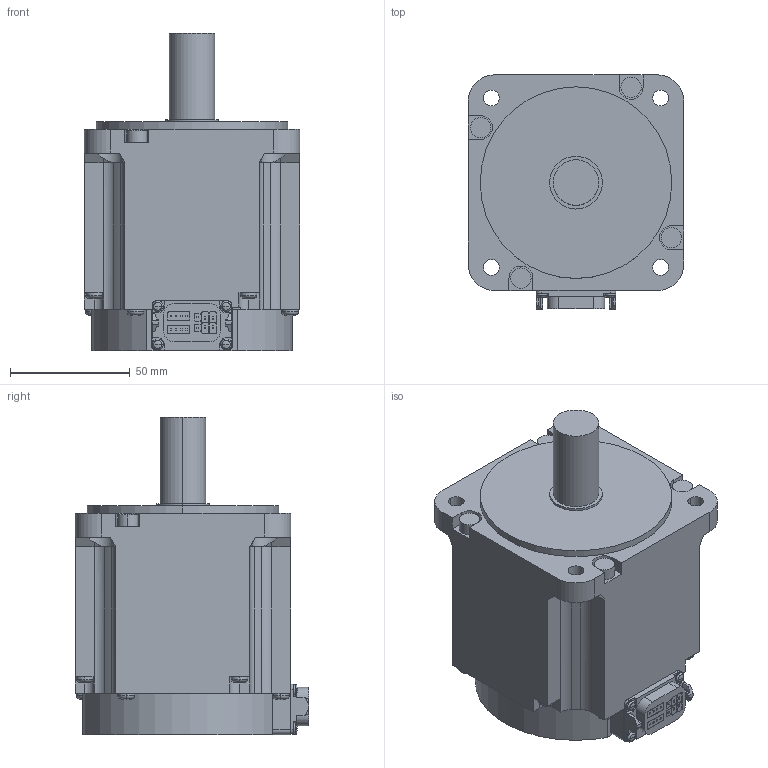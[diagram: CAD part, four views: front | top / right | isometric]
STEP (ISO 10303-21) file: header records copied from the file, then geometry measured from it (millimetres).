
FILE_DESCRIPTION((''),'2;1');
FILE_NAME('BC63816_-_HK-KT103UW_-_ASM','2019-01-18T',('XE90682'),(''),'CREO PARAMETRIC BY PTC INC, 2016380','CREO PARAMETRIC BY PTC INC, 2016380','');
FILE_SCHEMA(('CONFIG_CONTROL_DESIGN'));
Length unit declared in the file: millimetre
Products named in the file (1): BC63816_-_HK-KT103UW_-_ASM
Bounding box: 90 x 97.65 x 132.5 mm (x, y, z)
Volume: 663522 mm3; surface area: 52065.1 mm2
Topology: 1 solids, 1 shells, 397 faces, 1028 edges, 652 vertices
Faces by surface type: plane 224, cylinder 117, torus 24, sphere 24, cone 8
Entity records: 12071 total; most frequent: CARTESIAN_POINT 2181, DIRECTION 2101, ORIENTED_EDGE 2008, EDGE_CURVE 1004, AXIS2_PLACEMENT_3D 716, VECTOR 669, LINE 669, VERTEX_POINT 652
